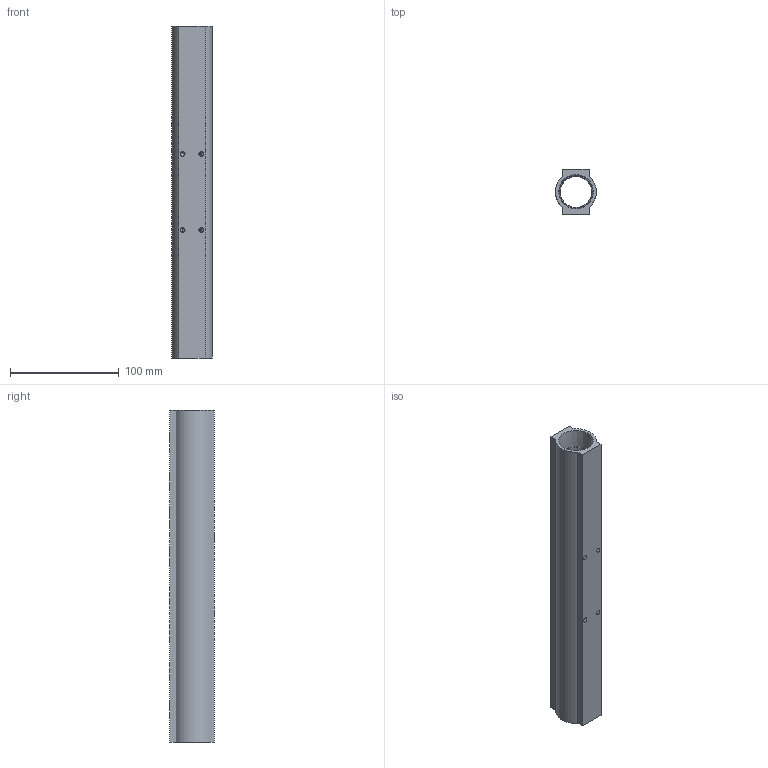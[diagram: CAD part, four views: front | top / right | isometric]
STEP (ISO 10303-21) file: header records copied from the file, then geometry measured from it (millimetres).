
FILE_DESCRIPTION (( 'STEP AP214' ), '1' );
FILE_NAME ('BWM8616R.STEP', '2022-03-15T05:25:56', ( '' ), ( '' ), 'SwSTEP 2.0', 'SolidWorks 2020', '' );
FILE_SCHEMA (( 'AUTOMOTIVE_DESIGN' ));
Length unit declared in the file: millimetre
Products named in the file (1): BWM8616R
Bounding box: 37.44 x 41 x 305 mm (x, y, z)
Volume: 167010.3 mm3; surface area: 71193.8 mm2
Topology: 1 solids, 1 shells, 216 faces, 577 edges, 378 vertices
Faces by surface type: plane 94, bspline 52, cylinder 42, cone 28
Entity records: 12202 total; most frequent: CARTESIAN_POINT 5402, ORIENTED_EDGE 1138, DIRECTION 739, EDGE_CURVE 569, VERTEX_POINT 378, LINE 277, VECTOR 277, EDGE_LOOP 257
